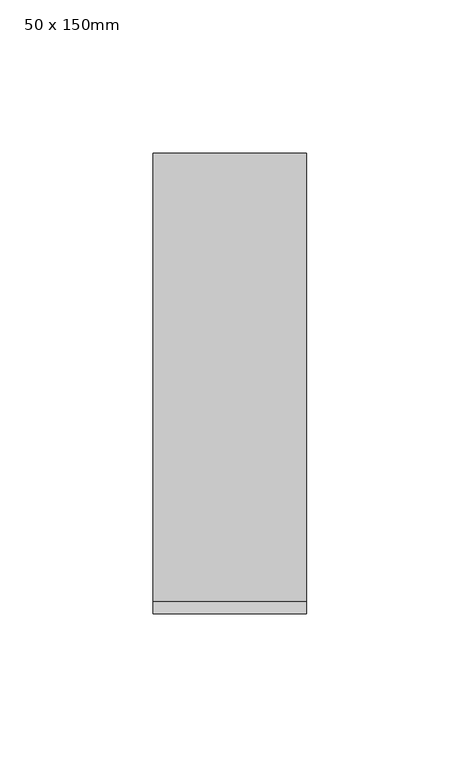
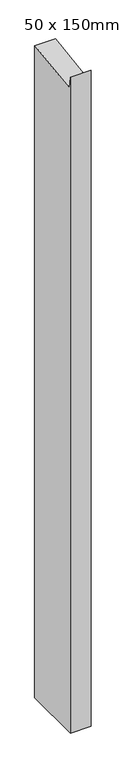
"""IFC4 building model written with IfcOpenShell, lengths in millimetres: member geometry, 矩形竖梃 : 50 x 150mm."""

from ifc_helpers import new_model, si_unit, frame, origin, place, context, project, spatial, polyline, outline, extrude, source, transform, mapped, element, save


def member_50_x_150mm_b9f85757(model_context):
    return source(origin(), model_context, "Body", "SweptSolid", [
        extrude(outline(polyline([(-75.0, 19.8848539), (-70.9111958, -9.9514279), (75.0, 10.0444388), (75.0, -1662.8860946), (-75.0, -1662.8860946), (-75.0, 19.8848539)])), frame((-50.0, 0.0, 0.0), z_axis=(1.0, 0.0, 0.0), x_axis=(0.0, 1.0, 0.0)), (0.0, 0.0, 1.0), 50.0),
    ])


if __name__ == "__main__":
    model = new_model("IFC4")
    model_context = context("Model", 3, world=origin())
    ifc_project = project(units=[si_unit("LENGTHUNIT", "METRE", prefix="MILLI")], contexts=[model_context])
    site = spatial("IfcSite", under=ifc_project)
    building = spatial("IfcBuilding", under=site)
    placement = place(None, origin())
    member_50_x_150mm_shape = member_50_x_150mm_b9f85757(model_context)
    element("IfcMember", 1, ObjectType="矩形竖梃 : 50 x 150mm", at=placement, inside=building, context=model_context, shape_type="MappedRepresentation", body=[
        mapped(member_50_x_150mm_shape, transform((0.0, 0.0, 0.0), x_axis=(1.0, 0.0, 0.0), y_axis=(0.0, 1.0, 0.0), z_axis=(0.0, 0.0, 1.0))),
    ])
    save(model, "model.ifc")
